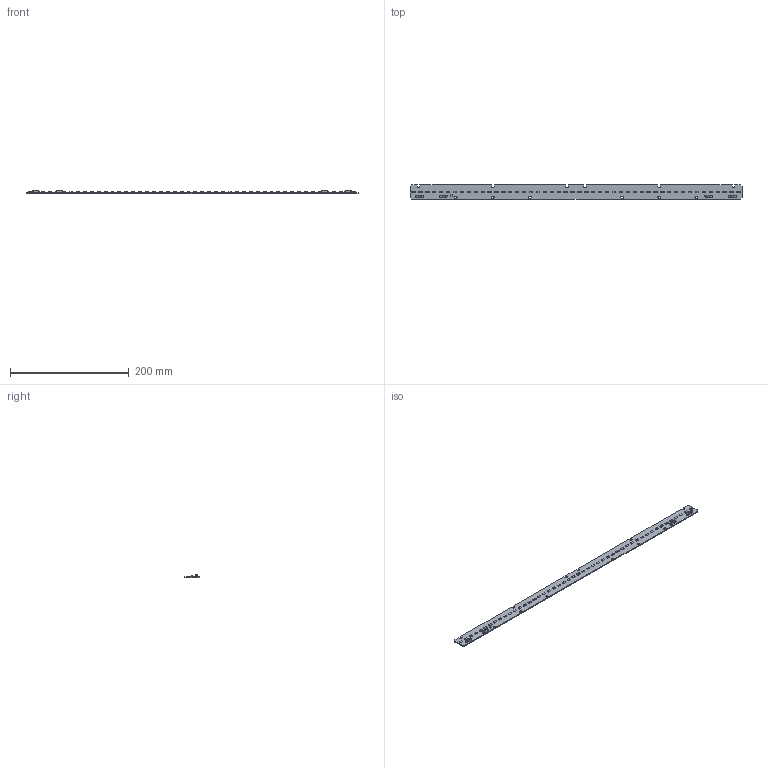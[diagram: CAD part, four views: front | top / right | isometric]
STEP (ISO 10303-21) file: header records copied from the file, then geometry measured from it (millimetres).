
FILE_DESCRIPTION((''),'2;1');
FILE_NAME('16206871_LLE-G4_24X560_2400LM','2016-02-19T',('bernhard.fink'),(''),'PRO/ENGINEER BY PARAMETRIC TECHNOLOGY CORPORATION, 2015200','PRO/ENGINEER BY PARAMETRIC TECHNOLOGY CORPORATION, 2015200','');
FILE_SCHEMA(('AUTOMOTIVE_DESIGN { 1 0 10303 214 1 1 1 1 }'));
Products named in the file (1): 16206871_LLE-G4_24X560_2400LM
Bounding box: 559 x 23.6 x 5.1 mm (x, y, z)
Volume: 22560.1 mm3; surface area: 29573.2 mm2
Topology: 1 solids, 1 shells, 2790 faces, 7648 edges, 4932 vertices
Faces by surface type: plane 1556, cylinder 862, bspline 232, cone 68, revolution 24, torus 24, sphere 24
Entity records: 137709 total; most frequent: CARTESIAN_POINT 29520, ORIENTED_EDGE 15200, DIRECTION 12592, PRESENTATION_STYLE_ASSIGNMENT 10031, STYLED_ITEM 7625, CURVE_STYLE 7624, EDGE_CURVE 7600, VECTOR 4964
